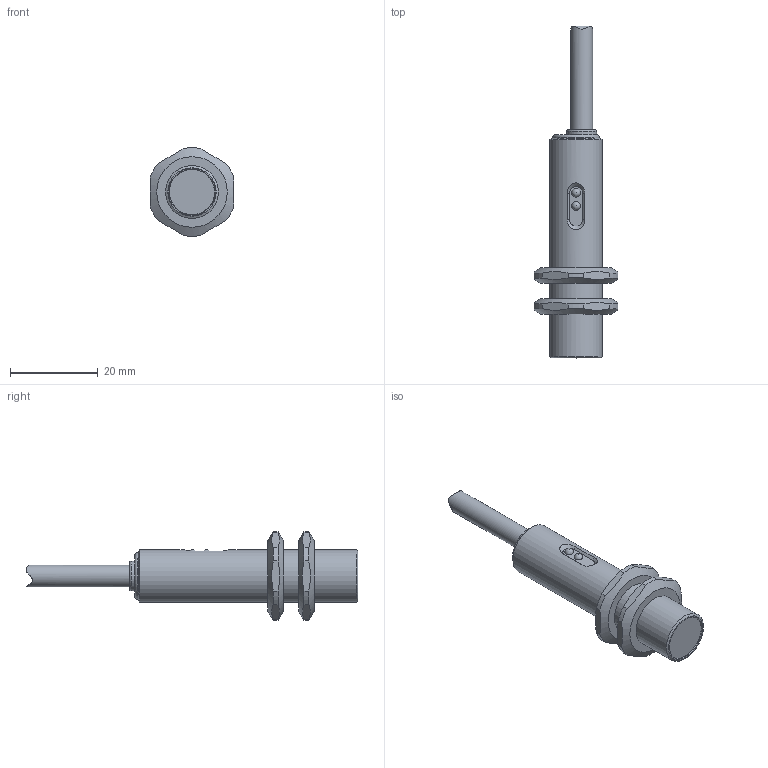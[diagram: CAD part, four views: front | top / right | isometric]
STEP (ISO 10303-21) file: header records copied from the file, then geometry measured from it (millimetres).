
FILE_DESCRIPTION(/* description */ (''),/* implementation_level */ '2;1');
FILE_NAME(/* name */ '3DCAD_PRK412B.stp',/* time_stamp */ '2018-07-05T14:27:41+02:00',/* author */ ('CC2'),/* organization */ ('Leuze electronic'),/* preprocessor_version */ 'ST-DEVELOPER v16',/* originating_system */ 'SIEMENS PLM Software NX 11.0',/* authorisation */ '');
FILE_SCHEMA (('AUTOMOTIVE_DESIGN { 1 0 10303 214 3 1 1 1 }'));
Length unit declared in the file: millimetre
Products named in the file (2): T_C_M_5915_00.0_1-Mutter 6KT - M12; 19-102809_00_1-3DCAD_PRK412B
Assembly tree (2 placements, depth 2):
  19-102809_00_1-3DCAD_PRK412B
    T_C_M_5915_00.0_1-Mutter 6KT - M12  x2
Bounding box: 19 x 75.6 x 20.16 mm (x, y, z)
Volume: 7280 mm3; surface area: 3781.2 mm2
Topology: 3 solids, 3 shells, 56 faces, 136 edges, 91 vertices
Faces by surface type: plane 22, cylinder 18, cone 9, bspline 2, torus 2, sphere 2, extrusion 1
Full cylindrical faces by diameter (mm): 5 x1, 6.8 x1, 10.5 x1, 12 x3
Entity records: 1478 total; most frequent: CARTESIAN_POINT 653, DIRECTION 153, ORIENTED_EDGE 140, EDGE_CURVE 70, AXIS2_PLACEMENT_3D 67, EDGE_LOOP 60, VERTEX_POINT 54, FACE_BOUND 40
